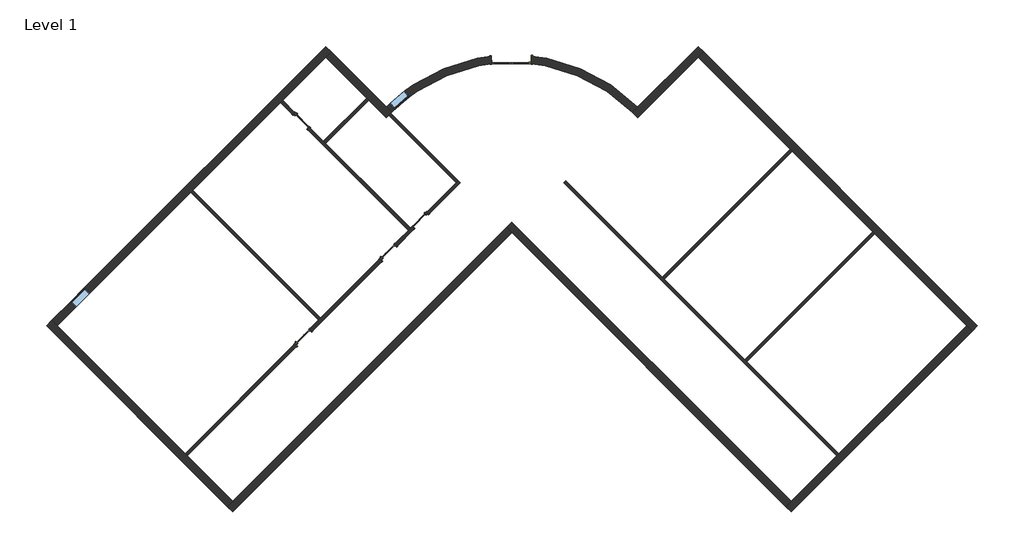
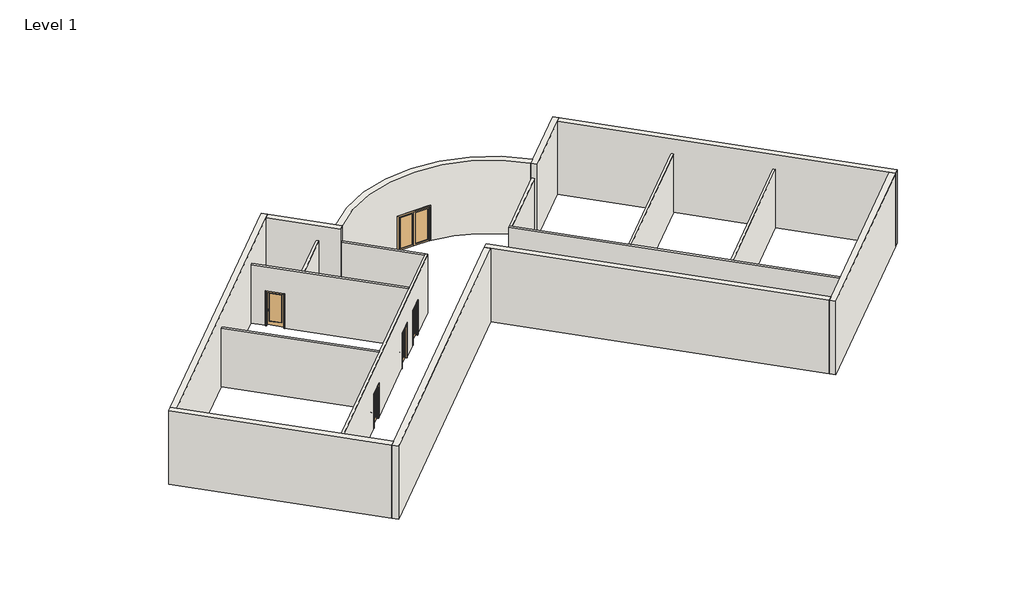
# One storey: 18 walls, 5 doors, 2 windows.
"""IFC4 building model written with IfcOpenShell, lengths in millimetres."""

from ifc_helpers import new_model, si_unit, point, frame, frame_2d, origin, origin_with_axes, place, context, project, spatial, polyline, circle_curve, trimmed, segment, composite_curve, outline, extrude, faceted_brep, transform, mapped, element, save
from ifc_brep_helpers import plane_surface, cylinder_surface, revolved_surface, advanced_brep
from components import m_door_double_glass_1830_x_2134_8faf7e2f, m_door_interior_single_1_panel_wood_900_x_2100mm_5dfd14ed, m_door_interior_single_1_panel_wood_900_x_2100mm_26619124, m_door_interior_single_full_glass_wood_900_x_2100mm_91e60ec7, m_fixed_0915_x_1220mm_bde29121, m_fixed_0915_x_1220mm_2a2509e7

model = new_model("IFC4")

# Units and contexts
model_context = context("Model", 3, world=origin())
ifc_project = project(units=[si_unit("LENGTHUNIT", "METRE", prefix="MILLI")], contexts=[model_context])

# Site, building, storey
site = spatial("IfcSite", under=ifc_project)
building = spatial("IfcBuilding", under=site)
storey = spatial("IfcBuildingStorey", under=building, Name="Level 1", Elevation=0.0)

# Doors
placement = place(None, origin())
m_door_double_glass_1830_x_2134_shape = m_door_double_glass_1830_x_2134_8faf7e2f(model_context)
element("IfcDoor", 1, ObjectType="M_Door-Double-Glass : 1830 x 2134", at=placement, inside=storey, context=model_context, shape_type="MappedRepresentation", body=[
    mapped(m_door_double_glass_1830_x_2134_shape, transform((-1635.4651954, 10000.9380636, 0.0), x_axis=(-0.999990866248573, -0.004274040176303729, 0.0), y_axis=(0.004274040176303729, -0.999990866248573, 0.0), z_axis=(0.0, 0.0, 1.0))),
])
m_door_interior_single_1_panel_wood_900_x_2100mm_shape = m_door_interior_single_1_panel_wood_900_x_2100mm_5dfd14ed(model_context)
element("IfcDoor", 2, ObjectType="M_Door-Interior-Single-1_Panel-Wood : 900 x 2100mm", at=placement, inside=storey, context=model_context, shape_type="MappedRepresentation", body=[
    mapped(m_door_interior_single_1_panel_wood_900_x_2100mm_shape, transform((-5845.495051, 2560.390774, 0.0), x_axis=(-0.7071067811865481, -0.7071067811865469, 0.0), y_axis=(0.7071067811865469, -0.7071067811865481, 0.0), z_axis=(0.0, 0.0, 1.0))),
])
m_door_interior_single_1_panel_wood_900_x_2100mm_2_shape = m_door_interior_single_1_panel_wood_900_x_2100mm_26619124(model_context)
element("IfcDoor", 3, ObjectType="M_Door-Interior-Single-1_Panel-Wood : 900 x 2100mm", at=placement, inside=storey, context=model_context, shape_type="MappedRepresentation", body=[
    mapped(m_door_interior_single_1_panel_wood_900_x_2100mm_2_shape, transform((-11360.5390355, 7166.1307933, 0.0), x_axis=(0.7071067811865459, -0.7071067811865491, 0.0), y_axis=(0.7071067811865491, 0.7071067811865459, 0.0), z_axis=(0.0, 0.0, 1.0))),
])
m_door_interior_single_full_glass_wood_900_x_2100mm_shape = m_door_interior_single_full_glass_wood_900_x_2100mm_91e60ec7(model_context)
element("IfcDoor", 4, ObjectType="M_Door-Interior-Single-Full Glass-Wood : 900 x 2100mm", at=placement, inside=storey, context=model_context, shape_type="MappedRepresentation", body=[
    mapped(m_door_interior_single_full_glass_wood_900_x_2100mm_shape, transform((-11272.2921092, -2866.4062842, 0.0), x_axis=(0.7071067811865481, 0.7071067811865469, 0.0), y_axis=(-0.7071067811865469, 0.7071067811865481, 0.0), z_axis=(0.0, 0.0, 1.0))),
])
element("IfcDoor", 5, ObjectType="M_Door-Interior-Single-Full Glass-Wood : 900 x 2100mm", at=placement, inside=storey, context=model_context, shape_type="MappedRepresentation", body=[
    mapped(m_door_interior_single_full_glass_wood_900_x_2100mm_shape, transform((-7333.813404, 1072.072421, 0.0), x_axis=(0.7071067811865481, 0.7071067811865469, 0.0), y_axis=(-0.7071067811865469, 0.7071067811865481, 0.0), z_axis=(0.0, 0.0, 1.0))),
])

# Walls
element("IfcWall", 6, ObjectType="Exterior - Brick on Mtl. Stud", at=placement, inside=storey, context=model_context, shape_type="AdvancedBrep", body=[
    advanced_brep(
    [(4212.7441701, 7313.6674352, 4572.0), (4212.7441701, 7313.6674352, 0.0), (7019.8001803, 10120.7234455, 0.0), (7267.2875537, 10368.2108189, 0.0), (7267.2875537, 10368.2108189, 4572.0), (7019.8001803, 10120.7234455, 4572.0), (3970.7557398, 7566.6537518, 0.0), (3970.7557398, 7566.6537518, 4572.0), (4218.2431133, 7814.1411252, 4572.0), (7019.8001803, 10615.6981923, 4572.0), (7019.8001803, 10615.6981923, 0.0), (4218.2431133, 7814.1411252, 0.0), (4109.8638796, 7423.9826013, 0.0), (4013.5506313, 7523.5275434, 0.0)],
    [
        (0, 1),
        (1, 2),
        (2, 3),
        (3, 4),
        (4, 5),
        (5, 0),
        (6, 7),
        (7, 8),
        (8, 9),
        (9, 10),
        (10, 11),
        (11, 6),
        (1, 12, circle_curve(frame((-1601.2456959, 1994.6523161, 0.0), z_axis=(0.0, 0.0, 1.0), x_axis=(1.0, 0.0, 0.0)), 7880.0)),
        (12, 13, circle_curve(frame((-1601.2456959, 1994.6523161, 0.0), z_axis=(0.0, 0.0, 1.0), x_axis=(1.0, 0.0, 0.0)), 7879.9999955)),
        (13, 6, circle_curve(frame((-1601.2456959, 1994.6523161, 0.0), z_axis=(0.0, 0.0, 1.0), x_axis=(1.0, 0.0, 0.0)), 7879.9999413)),
        (10, 3),
        (4, 9),
        (7, 0, circle_curve(frame((-1601.2456959, 1994.6523161, 4572.0), z_axis=(0.0, 0.0, -1.0), x_axis=(1.0, 0.0, 0.0)), 7880.0)),
    ],
    [
        plane_surface(frame((4250.0629184, 7350.9861836, 0.0), z_axis=(0.7071067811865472, -0.7071067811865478, 0.0), x_axis=(0.7071067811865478, 0.7071067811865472, 0.0))),
        plane_surface(frame((4002.575545, 7598.473557, 0.0), z_axis=(-0.7071067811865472, 0.7071067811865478, 0.0), x_axis=(-0.7071067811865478, -0.7071067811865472, 0.0))),
        plane_surface(frame((4340.6424361, 7441.5657013, 0.0), z_axis=(0.0, 0.0, -1.0), x_axis=(-0.7071067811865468, 0.7071067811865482, 0.0))),
        plane_surface(frame((7143.543867, 10244.4671322, 4572.0), z_axis=(0.0, 0.0, 1.0), x_axis=(-0.707106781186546, 0.7071067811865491, 0.0))),
        plane_surface(frame((7019.8001803, 10615.6981923, 0.0), z_axis=(0.7071067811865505, 0.7071067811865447, 0.0), x_axis=(-0.7071067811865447, 0.7071067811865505, 0.0))),
        revolved_surface(polyline([(6278.7543041, 1994.6523161, 0.0), (6278.7543041, 1994.6523161, 4572.0)]), (-1601.2456959, 1994.6523161, 0.0), (0.0, 0.0, -1.0)),
    ],
    [
        (0, [[1, 2, 3, 4, 5, 6]]),
        (1, [[7, 8, 9, 10, 11, 12]]),
        (2, [[-3, -2, 13, 14, 15, -12, -11, 16]]),
        (3, [[-6, -5, 17, -9, -8, 18]]),
        (4, [[-4, -16, -10, -17]]),
        (5, [[-18, -7, -15, -14, -13, -1]]),
    ],
),
])
element("IfcWall", 7, ObjectType="Exterior - Brick on Mtl. Stud", at=placement, inside=storey, context=model_context, shape_type="Brep", body=[
    faceted_brep([(7019.8001803, 10120.7234455, 0.0), (11281.3559738, 5859.167652, 0.0), (11379.290263, 5761.2333628, 0.0), (15096.9041651, 2043.6194607, 0.0), (15194.8384543, 1945.6851715, 0.0), (19456.3942478, -2315.870622, 0.0), (19703.8816212, -2563.3579955, 0.0), (19703.8816212, -2563.3579955, 4572.0), (19456.3942478, -2315.870622, 4572.0), (7019.8001803, 10120.7234455, 4572.0), (7267.2875537, 10368.2108189, 0.0), (7267.2875537, 10368.2108189, 4572.0), (19951.3689947, -2315.870622, 4572.0), (19951.3689947, -2315.870622, 0.0)], [[[0, 1, 2, 3, 4, 5, 6, 7, 8, 9]], [[10, 11, 12, 13]], [[6, 5, 4, 3, 2, 1, 0, 10, 13]], [[9, 8, 7, 12, 11]], [[0, 9, 11, 10]], [[7, 6, 13, 12]]]),
])
element("IfcWall", 8, ObjectType="Exterior - Brick on Mtl. Stud", at=placement, inside=storey, context=model_context, shape_type="Brep", body=[
    faceted_brep([(19456.3942478, -2315.870622, 0.0), (13534.5517321, -8237.7131378, 0.0), (13436.6174429, -8335.647427, 0.0), (11330.3231184, -10441.9417514, 0.0), (11082.835745, -10689.4291248, 0.0), (11082.835745, -10689.4291248, 4572.0), (11330.3231184, -10441.9417514, 4572.0), (19456.3942478, -2315.870622, 4572.0), (19703.8816212, -2563.3579955, 0.0), (19703.8816212, -2563.3579955, 4572.0), (11330.3231184, -10936.9164983, 4572.0), (11330.3231184, -10936.9164983, 0.0)], [[[0, 1, 2, 3, 4, 5, 6, 7]], [[8, 9, 10, 11]], [[4, 3, 2, 1, 0, 8, 11]], [[7, 6, 5, 10, 9]], [[0, 7, 9, 8]], [[5, 4, 11, 10]]]),
])
element("IfcWall", 9, ObjectType="Exterior - Brick on Mtl. Stud", at=placement, inside=storey, context=model_context, shape_type="Brep", body=[
    faceted_brep([(11330.3231184, -10441.9417514, 0.0), (-1601.2456959, 2489.6270629, 0.0), (-1601.2456959, 2489.6270629, 4572.0), (11330.3231184, -10441.9417514, 4572.0), (11082.835745, -10689.4291248, 0.0), (11082.835745, -10689.4291248, 4572.0), (-1601.2456959, 1994.6523161, 4572.0), (-1848.7330693, 2242.1396895, 4572.0), (-1848.7330693, 2242.1396895, 0.0), (-1601.2456959, 1994.6523161, 0.0)], [[[0, 1, 2, 3]], [[4, 5, 6, 7, 8, 9]], [[1, 0, 4, 9, 8]], [[3, 2, 7, 6, 5]], [[0, 3, 5, 4]], [[2, 1, 8, 7]]]),
])
element("IfcWall", 10, ObjectType="Exterior - Brick on Mtl. Stud", at=placement, inside=storey, context=model_context, shape_type="Brep", body=[
    faceted_brep([(-1848.7330693, 2242.1396895, 0.0), (-14532.8145102, -10441.9417514, 0.0), (-14780.3018837, -10689.4291248, 0.0), (-14780.3018837, -10689.4291248, 4572.0), (-14532.8145102, -10441.9417514, 4572.0), (-1848.7330693, 2242.1396895, 4572.0), (-1601.2456959, 1994.6523161, 0.0), (-1601.2456959, 1994.6523161, 4572.0), (-14532.8145102, -10936.9164983, 4572.0), (-14532.8145102, -10936.9164983, 0.0)], [[[0, 1, 2, 3, 4, 5]], [[6, 7, 8, 9]], [[2, 1, 0, 6, 9]], [[5, 4, 3, 8, 7]], [[0, 5, 7, 6]], [[3, 2, 9, 8]]]),
])
element("IfcWall", 11, ObjectType="Exterior - Brick on Mtl. Stud", at=placement, inside=storey, context=model_context, shape_type="Brep", body=[
    faceted_brep([(-14532.8145102, -10441.9417514, 0.0), (-16639.1088347, -8335.647427, 0.0), (-16737.0431239, -8237.7131378, 0.0), (-22658.8856396, -2315.870622, 0.0), (-22906.3730131, -2068.3832486, 0.0), (-22906.3730131, -2068.3832486, 4572.0), (-22658.8856396, -2315.870622, 4572.0), (-14532.8145102, -10441.9417514, 4572.0), (-14780.3018837, -10689.4291248, 0.0), (-14780.3018837, -10689.4291248, 4572.0), (-23153.8603865, -2315.870622, 4572.0), (-23153.8603865, -2315.870622, 0.0)], [[[0, 1, 2, 3, 4, 5, 6, 7]], [[8, 9, 10, 11]], [[4, 3, 2, 1, 0, 8, 11]], [[7, 6, 5, 10, 9]], [[0, 7, 9, 8]], [[5, 4, 11, 10]]]),
])
element("IfcWall", 12, ObjectType="Exterior - Brick on Mtl. Stud", at=placement, inside=storey, context=model_context, shape_type="Brep", body=[
    faceted_brep([(-22658.8856396, -2315.870622, 0.0), (-16473.6458479, 3869.3691697, 0.0), (-16375.7115587, 3967.3034589, 0.0), (-12319.9238385, 8023.0911791, 0.0), (-12221.9895493, 8121.0254683, 0.0), (-10222.2915721, 10120.7234455, 0.0), (-9974.8041987, 10368.2108189, 0.0), (-9974.8041987, 10368.2108189, 4572.0), (-10222.2915721, 10120.7234455, 4572.0), (-22658.8856396, -2315.870622, 4572.0), (-21796.9224734, -1453.9074558, 915.0), (-21796.9224734, -1453.9074558, 2135.0), (-21149.9197686, -806.904751, 2135.0), (-21149.9197686, -806.904751, 915.0), (-22906.3730131, -2068.3832486, 0.0), (-22906.3730131, -2068.3832486, 4572.0), (-10222.2915721, 10615.6981923, 4572.0), (-10222.2915721, 10615.6981923, 0.0), (-22044.4098468, -1206.4200824, 915.0), (-21397.407142, -559.4173776, 915.0), (-21397.407142, -559.4173776, 2135.0), (-22044.4098468, -1206.4200824, 2135.0)], [[[0, 1, 2, 3, 4, 5, 6, 7, 8, 9], [10, 11, 12, 13]], [[14, 15, 16, 17], [18, 19, 20, 21]], [[6, 5, 4, 3, 2, 1, 0, 14, 17]], [[9, 8, 7, 16, 15]], [[0, 9, 15, 14]], [[7, 6, 17, 16]], [[11, 10, 18, 21]], [[12, 11, 21, 20]], [[13, 12, 20, 19]], [[10, 13, 19, 18]]]),
])
element("IfcWall", 13, ObjectType="Exterior - Brick on Mtl. Stud", at=placement, inside=storey, context=model_context, shape_type="AdvancedBrep", body=[
    advanced_brep(
    [(-10222.2915721, 10120.7234455, 0.0), (-8331.6648159, 8230.0966893, 0.0), (-8233.7305267, 8132.1624001, 0.0), (-7415.2355619, 7313.6674352, 0.0), (-7415.2355619, 7313.6674352, 4572.0), (-10222.2915721, 10120.7234455, 4572.0), (-9974.8041987, 10368.2108189, 0.0), (-9974.8041987, 10368.2108189, 4572.0), (-7420.7345051, 7814.1411252, 4572.0), (-7173.2471317, 7566.6537518, 4572.0), (-7173.2471317, 7566.6537518, 0.0), (-7420.7345051, 7814.1411252, 0.0), (-7216.0420231, 7523.5275434, 0.0), (-7312.3552714, 7423.9826013, 0.0)],
    [
        (0, 1),
        (1, 2),
        (2, 3),
        (3, 4),
        (4, 5),
        (5, 0),
        (6, 7),
        (7, 8),
        (8, 9),
        (9, 10),
        (10, 11),
        (11, 6),
        (0, 6),
        (10, 12, circle_curve(frame((-1601.2456959, 1994.6523161, 0.0), z_axis=(0.0, 0.0, 1.0), x_axis=(1.0, 0.0, 0.0)), 7880.0)),
        (12, 13, circle_curve(frame((-1601.2456959, 1994.6523161, 0.0), z_axis=(0.0, 0.0, 1.0), x_axis=(1.0, 0.0, 0.0)), 7879.9999413)),
        (13, 3, circle_curve(frame((-1601.2456959, 1994.6523161, 0.0), z_axis=(0.0, 0.0, 1.0), x_axis=(1.0, 0.0, 0.0)), 7879.9999955)),
        (4, 9, circle_curve(frame((-1601.2456959, 1994.6523161, 4572.0), z_axis=(0.0, 0.0, -1.0), x_axis=(1.0, 0.0, 0.0)), 7880.0)),
        (7, 5),
    ],
    [
        plane_surface(frame((-10469.7789456, 10368.2108189, 0.0), z_axis=(-0.7071067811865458, -0.7071067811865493, 0.0), x_axis=(0.7071067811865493, -0.7071067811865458, 0.0))),
        plane_surface(frame((-10222.2915721, 10615.6981923, 0.0), z_axis=(0.7071067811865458, 0.7071067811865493, 0.0), x_axis=(-0.7071067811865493, 0.7071067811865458, 0.0))),
        plane_surface(frame((-10346.0352588, 10244.4671322, 0.0), z_axis=(0.0, 0.0, -1.0000000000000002), x_axis=(0.7071067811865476, 0.7071067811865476, 0.0))),
        plane_surface(frame((-7543.133828, 7441.5657013, 4572.0), z_axis=(0.0, 0.0, 1.0), x_axis=(0.707106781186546, 0.707106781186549, 0.0))),
        plane_surface(frame((-22906.3730131, -2563.3579955, 0.0), z_axis=(-0.7071067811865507, 0.7071067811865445, 0.0), x_axis=(0.7071067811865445, 0.7071067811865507, 0.0))),
        revolved_surface(polyline([(6278.7543041, 1994.6523161, 0.0), (6278.7543041, 1994.6523161, 4572.0)]), (-1601.2456959, 1994.6523161, 0.0), (0.0, 0.0, -1.0)),
    ],
    [
        (0, [[1, 2, 3, 4, 5, 6]]),
        (1, [[7, 8, 9, 10, 11, 12]]),
        (2, [[-3, -2, -1, 13, -12, -11, 14, 15, 16]]),
        (3, [[-5, 17, -9, -8, 18]]),
        (4, [[-6, -18, -7, -13]]),
        (5, [[-16, -15, -14, -10, -17, -4]]),
    ],
),
])
element("IfcWall", 14, ObjectType="Exterior - Brick on Mtl. Stud", at=placement, inside=storey, context=model_context, shape_type="AdvancedBrep", body=[
    advanced_brep(
    [(4218.2431133, 7814.1411252, 4572.0), (-7420.7345051, 7814.1411252, 4572.0), (-7173.2471317, 7566.6537518, 4572.0), (3970.7557398, 7566.6537518, 4572.0), (-7420.7345051, 7814.1411252, 0.0), (-2551.1946175, 10169.6444902, 0.0), (-2549.688953, 9817.366384, 0.0), (-7173.2471317, 7566.6537518, 0.0), (-721.2113323, 10177.4659837, 0.0), (4218.2431133, 7814.1411252, 0.0), (3970.7557398, 7566.6537518, 0.0), (-719.7056677, 9825.1878775, 0.0), (-2551.1946175, 10169.6444902, 2134.0), (-721.2113323, 10177.4659837, 2134.0), (-7259.2688911, 7971.2461222, 915.0), (-6560.8584073, 8562.3872188, 915.0), (-6560.8584073, 8562.3872188, 2135.0), (-7259.2688911, 7971.2461222, 2135.0), (-2549.688953, 9817.366384, 2134.0), (-719.7056677, 9825.1878775, 2134.0), (-7032.7835678, 7703.6624182, 915.0), (-7032.7835678, 7703.6624182, 2135.0), (-6334.373084, 8294.8035149, 2135.0), (-6334.373084, 8294.8035149, 915.0)],
    [
        (0, 1, circle_curve(frame((-1601.2456959, 1994.6523161, 4572.0), z_axis=(0.0, 0.0, 1.0), x_axis=(1.0, 0.0, 0.0)), 8230.0)),
        (1, 2),
        (2, 3, circle_curve(frame((-1601.2456959, 1994.6523161, 4572.0), z_axis=(0.0, 0.0, -1.0), x_axis=(1.0, 0.0, 0.0)), 7880.0)),
        (3, 0),
        (4, 5, circle_curve(frame((-1601.2456959, 1994.6523161, 0.0), z_axis=(0.0, 0.0, -1.0), x_axis=(1.0, 0.0, 0.0)), 8230.0)),
        (5, 6),
        (6, 7, circle_curve(frame((-1601.2456959, 1994.6523161, 0.0), z_axis=(0.0, 0.0, 1.0), x_axis=(1.0, 0.0, 0.0)), 7880.0)),
        (7, 4),
        (8, 9, circle_curve(frame((-1601.2456959, 1994.6523161, 0.0), z_axis=(0.0, 0.0, -1.0), x_axis=(1.0, 0.0, 0.0)), 8230.0)),
        (9, 10),
        (10, 11, circle_curve(frame((-1601.2456959, 1994.6523161, 0.0), z_axis=(0.0, 0.0, 1.0), x_axis=(1.0, 0.0, 0.0)), 7880.0)),
        (11, 8),
        (12, 5),
        (4, 1),
        (0, 9),
        (8, 13),
        (13, 12, circle_curve(frame((-1601.2456959, 1994.6523161, 2134.0), z_axis=(0.0, 0.0, 1.0), x_axis=(1.0, 0.0, 0.0)), 8230.0)),
        (14, 15, circle_curve(frame((-1601.2456959, 1994.6523161, 915.0), z_axis=(0.0, 0.0, -1.0), x_axis=(1.0, 0.0, 0.0)), 8230.0)),
        (15, 16),
        (16, 17, circle_curve(frame((-1601.2456959, 1994.6523161, 2135.0), z_axis=(0.0, 0.0, 1.0), x_axis=(1.0, 0.0, 0.0)), 8230.0)),
        (17, 14),
        (6, 18),
        (18, 19, circle_curve(frame((-1601.2456959, 1994.6523161, 2134.0), z_axis=(0.0, 0.0, -1.0), x_axis=(1.0, 0.0, 0.0)), 7880.0)),
        (19, 11),
        (10, 3),
        (2, 7),
        (20, 21),
        (21, 22, circle_curve(frame((-1601.2456959, 1994.6523161, 2135.0), z_axis=(0.0, 0.0, -1.0), x_axis=(1.0, 0.0, 0.0)), 7880.0)),
        (22, 23),
        (23, 20, circle_curve(frame((-1601.2456959, 1994.6523161, 915.0), z_axis=(0.0, 0.0, 1.0), x_axis=(1.0, 0.0, 0.0)), 7880.0)),
        (12, 18),
        (13, 19),
        (20, 14),
        (17, 21),
        (16, 22),
        (15, 23),
    ],
    [
        plane_surface(frame((6628.7543041, 1994.6523161, 4572.0), z_axis=(0.0, 0.0, 1.0), x_axis=(0.0, 1.0, 0.0))),
        plane_surface(frame((6628.7543041, 1994.6523161, 0.0), z_axis=(0.0, 0.0, -1.0), x_axis=(0.0, -1.0, 0.0))),
        cylinder_surface(frame((-1601.2456959, 1994.6523161, 0.0), z_axis=(0.0, 0.0, 1.0), x_axis=(1.0, 0.0, 0.0)), 8230.0),
        revolved_surface(polyline([(6278.7543041, 1994.6523161, 0.0), (6278.7543041, 1994.6523161, 4572.0)]), (-1601.2456959, 1994.6523161, 0.0), (0.0, 0.0, -1.0)),
        plane_surface(frame((-10222.2915721, 10615.6981923, 0.0), z_axis=(-0.7071067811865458, -0.7071067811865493, 0.0), x_axis=(-0.7071067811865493, 0.7071067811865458, 0.0))),
        plane_surface(frame((4002.575545, 7598.473557, 0.0), z_axis=(0.7071067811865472, -0.7071067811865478, 0.0), x_axis=(-0.7071067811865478, -0.7071067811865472, 0.0))),
        plane_surface(frame((-2549.688953, 9817.366384, 0.0), z_axis=(0.999990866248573, 0.004274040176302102, 0.0), x_axis=(-0.004274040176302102, 0.999990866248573, 0.0))),
        plane_surface(frame((-2549.688953, 9817.366384, 2134.0), z_axis=(0.0, 0.0, -1.0), x_axis=(-0.004274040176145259, 0.9999908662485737, 0.0))),
        plane_surface(frame((-719.7056677, 9825.1878775, 2134.0), z_axis=(-0.999990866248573, -0.004274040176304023, 0.0), x_axis=(-0.004274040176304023, 0.999990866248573, 0.0))),
        plane_surface(frame((-7032.7835678, 7703.6624182, 915.0), z_axis=(0.763290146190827, 0.6460558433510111, 0.0), x_axis=(-0.6460558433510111, 0.763290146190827, 0.0))),
        plane_surface(frame((-7032.7835678, 7703.6624182, 2135.0), z_axis=(0.0, 0.0, -1.0), x_axis=(-0.646055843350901, 0.76329014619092, 0.0))),
        plane_surface(frame((-6334.373084, 8294.8035149, 2135.0), z_axis=(-0.7632901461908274, -0.6460558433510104, 0.0), x_axis=(-0.6460558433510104, 0.7632901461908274, 0.0))),
        plane_surface(frame((-6334.373084, 8294.8035149, 915.0), z_axis=(0.0, 0.0, 1.0000000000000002), x_axis=(-0.646055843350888, 0.7632901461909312, 0.0))),
    ],
    [
        (0, [[1, 2, 3, 4]]),
        (1, [[5, 6, 7, 8]]),
        (1, [[9, 10, 11, 12]]),
        (2, [[13, -5, 14, -1, 15, -9, 16, 17], [18, 19, 20, 21]]),
        (3, [[-7, 22, 23, 24, -11, 25, -3, 26], [27, 28, 29, 30]]),
        (4, [[-8, -26, -2, -14]]),
        (5, [[-10, -15, -4, -25]]),
        (6, [[-22, -6, -13, 31]]),
        (7, [[-23, -31, -17, 32]]),
        (8, [[-24, -32, -16, -12]]),
        (9, [[-27, 33, -21, 34]]),
        (10, [[-28, -34, -20, 35]]),
        (11, [[-29, -35, -19, 36]]),
        (12, [[-30, -36, -18, -33]]),
    ],
),
])
element("IfcWall", 15, ObjectType="Interior - 138mm Partition (1-hr)", at=placement, inside=storey, context=model_context, shape_type="Brep", body=[
    faceted_brep([(-3997.9841307, 4305.477277, 3658.0), (-16639.1088347, -8335.647427, 3658.0), (-16639.1088347, -8335.647427, 0.0), (-11556.9556216, -3253.4942139, 0.0), (-11556.9556216, -3253.4942139, 2125.0), (-10885.2041795, -2581.7427718, 2125.0), (-10885.2041795, -2581.7427718, 0.0), (-7618.4769164, 684.9844913, 0.0), (-7618.4769164, 684.9844913, 2125.0), (-6946.7254743, 1356.7359334, 2125.0), (-6946.7254743, 1356.7359334, 0.0), (-6130.1585634, 2173.3028443, 0.0), (-6130.1585634, 2173.3028443, 2125.0), (-5458.4071213, 2845.0542865, 2125.0), (-5458.4071213, 2845.0542865, 0.0), (-3997.9841307, 4305.477277, 0.0), (-16737.0431239, -8237.7131378, 3658.0), (-10551.8033322, -2052.473346, 3658.0), (-10453.869043, -1954.5390569, 3658.0), (-6398.0813228, 2101.2486633, 3658.0), (-6300.1470336, 2199.1829525, 3658.0), (-4193.8527091, 4305.477277, 3658.0), (-4095.9184199, 4403.4115662, 3658.0), (-4095.9184199, 4403.4115662, 0.0), (-4193.8527091, 4305.477277, 0.0), (-5556.3414105, 2942.9885757, 0.0), (-5556.3414105, 2942.9885757, 2125.0), (-6228.0928526, 2271.2371335, 2125.0), (-6228.0928526, 2271.2371335, 0.0), (-6300.1470336, 2199.1829525, 0.0), (-6398.0813228, 2101.2486633, 0.0), (-7044.6597635, 1454.6702226, 0.0), (-7044.6597635, 1454.6702226, 2125.0), (-7716.4112056, 782.9187805, 2125.0), (-7716.4112056, 782.9187805, 0.0), (-10453.869043, -1954.5390569, 0.0), (-10551.8033322, -2052.473346, 0.0), (-10983.1384687, -2483.8084826, 0.0), (-10983.1384687, -2483.8084826, 2125.0), (-11654.8899108, -3155.5599247, 2125.0), (-11654.8899108, -3155.5599247, 0.0), (-16737.0431239, -8237.7131378, 0.0)], [[[0, 1, 2, 3, 4, 5, 6, 7, 8, 9, 10, 11, 12, 13, 14, 15]], [[16, 17, 18, 19, 20, 21, 22, 23, 24, 25, 26, 27, 28, 29, 30, 31, 32, 33, 34, 35, 36, 37, 38, 39, 40, 41]], [[2, 41, 40, 3]], [[23, 15, 14, 25, 24]], [[6, 37, 36, 35, 34, 7]], [[10, 31, 30, 29, 28, 11]], [[1, 0, 22, 21, 20, 19, 18, 17, 16]], [[2, 1, 16, 41]], [[0, 15, 23, 22]], [[5, 38, 37, 6]], [[38, 5, 4, 39]], [[39, 4, 3, 40]], [[9, 32, 31, 10]], [[32, 9, 8, 33]], [[33, 8, 7, 34]], [[27, 12, 11, 28]], [[12, 27, 26, 13]], [[13, 26, 25, 14]]]),
])
element("IfcWall", 16, ObjectType="Interior - 138mm Partition (1-hr)", at=placement, inside=storey, context=model_context, shape_type="SweptSolid", body=[
    extrude(outline(composite_curve([segment(polyline([(-7216.038281, 7523.5314273), (-4095.9184199, 4403.4115662), (-4193.8527091, 4305.477277), (-7312.3566207, 7423.9811885)]), True, "CONTINUOUS"), segment(trimmed(circle_curve(frame_2d((-1601.2456959, 1994.6523161)), 7880.0), [point((-7312.3566207, 7423.9811885))], [point((-7216.038281, 7523.5314273))], False, "CARTESIAN"), True, "CONTINUOUS")], self_intersect=False)), origin_with_axes(), (0.0, 0.0, 1.0), 3658.0),
])
element("IfcWall", 17, ObjectType="Interior - 138mm Partition (1-hr)", at=placement, inside=storey, context=model_context, shape_type="Brep", body=[
    faceted_brep([(-12221.9895493, 8121.0254683, 3658.0), (-10331.3627931, 6230.3987121, 3658.0), (-10233.4285039, 6132.4644229, 3658.0), (-6300.1470336, 2199.1829525, 3658.0), (-6300.1470336, 2199.1829525, 0.0), (-10233.4285039, 6132.4644229, 0.0), (-10331.3627931, 6230.3987121, 0.0), (-10977.9412339, 6876.9771528, 0.0), (-10977.9412339, 6876.9771528, 2125.0), (-11649.692676, 7548.7285949, 2125.0), (-11649.692676, 7548.7285949, 0.0), (-12221.9895493, 8121.0254683, 0.0), (-6398.0813228, 2101.2486633, 3658.0), (-12319.9238385, 8023.0911791, 3658.0), (-12319.9238385, 8023.0911791, 0.0), (-11747.6269652, 7450.7943057, 0.0), (-11747.6269652, 7450.7943057, 2125.0), (-11075.875523, 6779.0428636, 2125.0), (-11075.875523, 6779.0428636, 0.0), (-6398.0813228, 2101.2486633, 0.0)], [[[0, 1, 2, 3, 4, 5, 6, 7, 8, 9, 10, 11]], [[12, 13, 14, 15, 16, 17, 18, 19]], [[4, 19, 18, 7, 6, 5]], [[14, 11, 10, 15]], [[3, 2, 1, 0, 13, 12]], [[0, 11, 14, 13]], [[4, 3, 12, 19]], [[17, 8, 7, 18]], [[8, 17, 16, 9]], [[9, 16, 15, 10]]]),
])
element("IfcWall", 18, ObjectType="Interior - 138mm Partition (1-hr)", at=placement, inside=storey, context=model_context, shape_type="SweptSolid", body=[
    extrude(outline(polyline([(-8233.7305267, 8132.1624001), (-10233.4285039, 6132.4644229), (-10331.3627931, 6230.3987121), (-8331.6648159, 8230.0966893), (-8233.7305267, 8132.1624001)])), origin_with_axes(), (0.0, 0.0, 1.0), 3658.0),
])
element("IfcWall", 19, ObjectType="Interior - 138mm Partition (1-hr)", at=placement, inside=storey, context=model_context, shape_type="SweptSolid", body=[
    extrude(outline(polyline([(-16375.7115587, 3967.3034589), (-10453.869043, -1954.5390569), (-10551.8033322, -2052.473346), (-16473.6458479, 3869.3691697), (-16375.7115587, 3967.3034589)])), origin_with_axes(), (0.0, 0.0, 1.0), 3658.0),
])
element("IfcWall", 20, ObjectType="Interior - 138mm Partition (1-hr)", at=placement, inside=storey, context=model_context, shape_type="Brep", body=[
    faceted_brep([(13534.5517321, -8237.7131378, 0.0), (9272.9959386, -3976.1573443, 0.0), (9175.0616494, -3878.2230551, 0.0), (5457.4477473, -160.609153, 0.0), (5359.5134581, -62.6748638, 0.0), (991.3613173, 4305.477277, 0.0), (893.4270281, 4403.4115662, 0.0), (893.4270281, 4403.4115662, 3658.0), (991.3613173, 4305.477277, 3658.0), (5359.5134581, -62.6748638, 3658.0), (5457.4477473, -160.609153, 3658.0), (9175.0616494, -3878.2230551, 3658.0), (9272.9959386, -3976.1573443, 3658.0), (13534.5517321, -8237.7131378, 3658.0), (13436.6174429, -8335.647427, 0.0), (13436.6174429, -8335.647427, 3658.0), (795.4927389, 4305.477277, 3658.0), (795.4927389, 4305.477277, 0.0)], [[[0, 1, 2, 3, 4, 5, 6, 7, 8, 9, 10, 11, 12, 13]], [[14, 15, 16, 17]], [[6, 5, 4, 3, 2, 1, 0, 14, 17]], [[13, 12, 11, 10, 9, 8, 7, 16, 15]], [[0, 13, 15, 14]], [[7, 6, 17, 16]]]),
])
element("IfcWall", 21, ObjectType="Interior - 138mm Partition (1-hr)", at=placement, inside=storey, context=model_context, shape_type="SweptSolid", body=[
    extrude(outline(composite_curve([segment(polyline([(4109.8652288, 7423.9811885), (991.3613173, 4305.477277), (893.4270281, 4403.4115662), (4013.5468892, 7523.5314273)]), True, "CONTINUOUS"), segment(trimmed(circle_curve(frame_2d((-1601.2456959, 1994.6523161)), 7880.0), [point((4013.5468892, 7523.5314273))], [point((4109.8652288, 7423.9811885))], False, "CARTESIAN"), True, "CONTINUOUS")], self_intersect=False)), origin_with_axes(), (0.0, 0.0, 1.0), 3658.0),
])
element("IfcWall", 22, ObjectType="Interior - 138mm Partition (1-hr)", at=placement, inside=storey, context=model_context, shape_type="SweptSolid", body=[
    extrude(outline(polyline([(11379.290263, 5761.2333628), (5457.4477473, -160.609153), (5359.5134581, -62.6748638), (11281.3559738, 5859.167652), (11379.290263, 5761.2333628)])), origin_with_axes(), (0.0, 0.0, 1.0), 3658.0),
])
element("IfcWall", 23, ObjectType="Interior - 138mm Partition (1-hr)", at=placement, inside=storey, context=model_context, shape_type="SweptSolid", body=[
    extrude(outline(polyline([(15194.8384543, 1945.6851715), (9272.9959386, -3976.1573443), (9175.0616494, -3878.2230551), (15096.9041651, 2043.6194607), (15194.8384543, 1945.6851715)])), origin_with_axes(), (0.0, 0.0, 1.0), 3658.0),
])

# Windows
m_fixed_0915_x_1220mm_shape = m_fixed_0915_x_1220mm_bde29121(model_context)
element("IfcWindow", 24, ObjectType="M_Fixed : 0915 x 1220mm", at=placement, inside=storey, context=model_context, shape_type="MappedRepresentation", body=[
    mapped(m_fixed_0915_x_1220mm_shape, transform((-21587.9724195, -1015.8548048, 0.0), x_axis=(0.7071067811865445, 0.7071067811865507, 0.0), y_axis=(-0.7071067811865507, 0.7071067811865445, 0.0), z_axis=(0.0, 0.0, 1.0))),
])
m_fixed_0915_x_1220mm_2_shape = m_fixed_0915_x_1220mm_2a2509e7(model_context)
element("IfcWindow", 25, ObjectType="M_Fixed : 0915 x 1220mm", at=placement, inside=storey, context=model_context, shape_type="MappedRepresentation", body=[
    mapped(m_fixed_0915_x_1220mm_2_shape, transform((-6805.4026025, 8143.1636668, 0.0), x_axis=(0.7632901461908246, 0.6460558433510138, 0.0), y_axis=(-0.6460558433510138, 0.7632901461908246, 0.0), z_axis=(0.0, 0.0, 1.0))),
])

save(model, "model.ifc")
